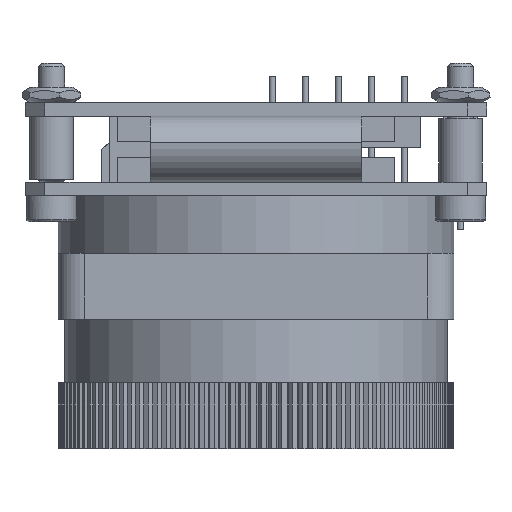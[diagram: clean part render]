
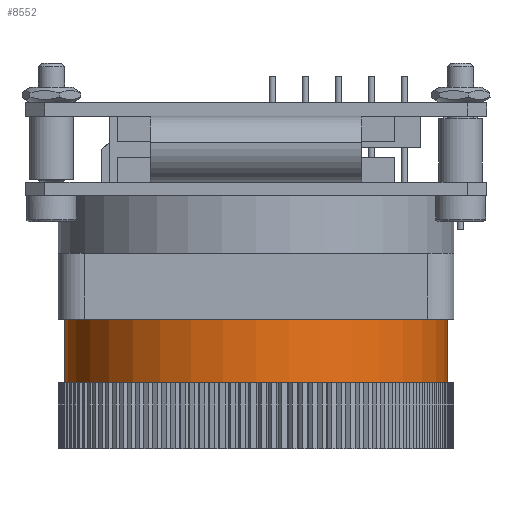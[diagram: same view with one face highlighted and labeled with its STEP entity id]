
A CAD part, left-side view. The second image highlights one B-rep face of the part: STEP entity #8552.
In plain terms, the highlighted cylindrical face has radius 14.5 mm (diameter 29 mm), a full revolution.
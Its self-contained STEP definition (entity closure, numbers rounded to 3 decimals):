
#8474=CARTESIAN_POINT('',(475.058,416.733,-7.35));
#8475=VERTEX_POINT('',#8474);
#8476=CARTESIAN_POINT('',(489.558,416.733,-7.35));
#8477=DIRECTION('',(0.0,0.0,1.0));
#8478=DIRECTION('',(1.0,0.0,0.0));
#8479=AXIS2_PLACEMENT_3D('',#8476,#8477,#8478);
#8480=CIRCLE('',#8479,14.5);
#8481=EDGE_CURVE('',#8475,#8475,#8480,.T.);
#8533=CARTESIAN_POINT('',(489.558,416.733,-7.35));
#8534=DIRECTION('',(0.,0.,-1.0));
#8535=DIRECTION('',(1.0,0.0,0.0));
#8536=AXIS2_PLACEMENT_3D('',#8533,#8534,#8535);
#8537=CYLINDRICAL_SURFACE('',#8536,14.5);
#8538=CARTESIAN_POINT('',(475.058,416.733,-12.15));
#8539=VERTEX_POINT('',#8538);
#8540=CARTESIAN_POINT('',(489.558,416.733,-12.15));
#8541=DIRECTION('',(0.0,0.0,1.0));
#8542=DIRECTION('',(1.0,0.0,0.0));
#8543=AXIS2_PLACEMENT_3D('',#8540,#8541,#8542);
#8544=CIRCLE('',#8543,14.5);
#8545=EDGE_CURVE('',#8539,#8539,#8544,.T.);
#8546=ORIENTED_EDGE('',*,*,#8545,.T.);
#8547=EDGE_LOOP('',(#8546));
#8548=FACE_OUTER_BOUND('',#8547,.T.);
#8549=ORIENTED_EDGE('',*,*,#8481,.F.);
#8550=EDGE_LOOP('',(#8549));
#8551=FACE_BOUND('',#8550,.T.);
#8552=ADVANCED_FACE('',(#8548,#8551),#8537,.T.);
